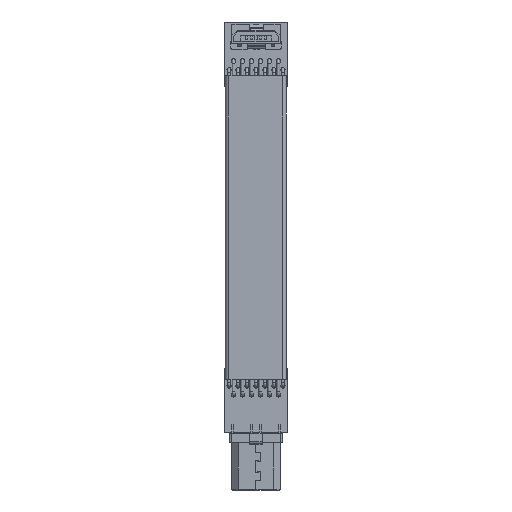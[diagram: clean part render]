
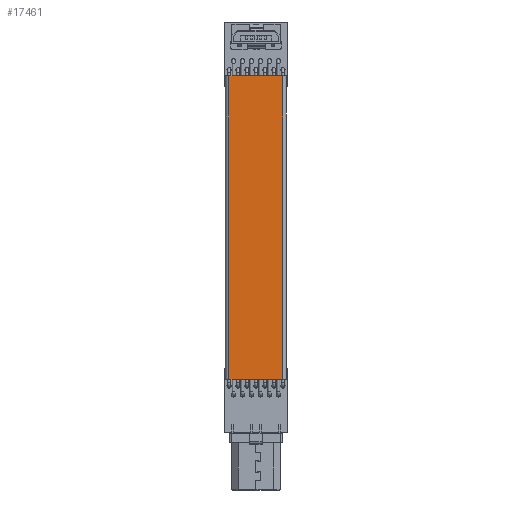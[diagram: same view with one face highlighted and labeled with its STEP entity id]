
A CAD part, top view. The second image highlights one B-rep face of the part: STEP entity #17461.
In plain terms, the highlighted planar face has unit normal (0, 0, 1) as drawn and (0, 1, 0) by its records, which use the part's own axes.
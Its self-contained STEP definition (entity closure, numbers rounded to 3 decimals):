
#16985 = VERTEX_POINT('',#16986);
#16986 = CARTESIAN_POINT('',(-0.001,-0.201,43.));
#16993 = EDGE_CURVE('',#16985,#16994,#16996,.T.);
#16994 = VERTEX_POINT('',#16995);
#16995 = CARTESIAN_POINT('',(-7.621,-0.201,43.));
#16996 = LINE('',#16997,#16998);
#16997 = CARTESIAN_POINT('',(-7.621,-0.201,43.));
#16998 = VECTOR('',#16999,1.);
#16999 = DIRECTION('',(-1.,0.,0.));
#17162 = VERTEX_POINT('',#17163);
#17163 = CARTESIAN_POINT('',(-0.001,-0.201,
    0.));
#17179 = VERTEX_POINT('',#17180);
#17180 = CARTESIAN_POINT('',(-7.621,-0.201,0.));
#17187 = EDGE_CURVE('',#17162,#17179,#17188,.T.);
#17188 = LINE('',#17189,#17190);
#17189 = CARTESIAN_POINT('',(-7.621,-0.201,0.));
#17190 = VECTOR('',#17191,1.);
#17191 = DIRECTION('',(-1.,0.,0.));
#17417 = EDGE_CURVE('',#17162,#16985,#17418,.T.);
#17418 = LINE('',#17419,#17420);
#17419 = CARTESIAN_POINT('',(-0.001,-0.201,
    0.));
#17420 = VECTOR('',#17421,1.);
#17421 = DIRECTION('',(0.,0.,1.));
#17449 = EDGE_CURVE('',#17179,#16994,#17450,.T.);
#17450 = LINE('',#17451,#17452);
#17451 = CARTESIAN_POINT('',(-7.621,-0.201,0.));
#17452 = VECTOR('',#17453,1.);
#17453 = DIRECTION('',(0.,0.,1.));
#17461 = ADVANCED_FACE('',(#17462),#17468,.T.);
#17462 = FACE_BOUND('',#17463,.T.);
#17463 = EDGE_LOOP('',(#17464,#17465,#17466,#17467));
#17464 = ORIENTED_EDGE('',*,*,#16993,.F.);
#17465 = ORIENTED_EDGE('',*,*,#17417,.F.);
#17466 = ORIENTED_EDGE('',*,*,#17187,.T.);
#17467 = ORIENTED_EDGE('',*,*,#17449,.T.);
#17468 = PLANE('',#17469);
#17469 = AXIS2_PLACEMENT_3D('',#17470,#17471,#17472);
#17470 = CARTESIAN_POINT('',(-7.621,-0.201,0.));
#17471 = DIRECTION('',(0.,1.,0.));
#17472 = DIRECTION('',(0.,0.,1.));
